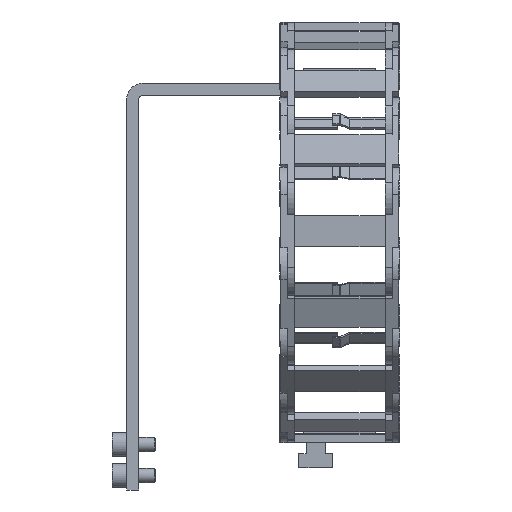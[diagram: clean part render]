
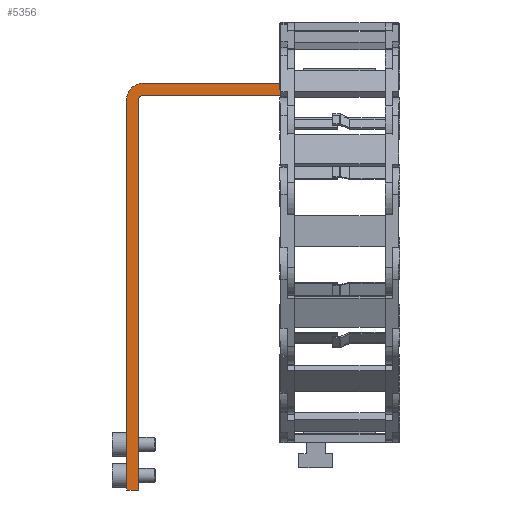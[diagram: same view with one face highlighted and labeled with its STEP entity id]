
A CAD part, left-side view. The second image highlights one B-rep face of the part: STEP entity #5356.
In plain terms, the highlighted planar face has unit normal (-1, 0, 0).
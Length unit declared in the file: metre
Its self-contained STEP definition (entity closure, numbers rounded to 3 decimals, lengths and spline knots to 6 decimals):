
#5356 = ADVANCED_FACE( '', ( #10819 ), #10820, .F. );
#10819 = FACE_OUTER_BOUND( '', #16395, .T. );
#10820 = PLANE( '', #16396 );
#16395 = EDGE_LOOP( '', ( #32894, #32895, #32896, #32897, #32898, #32899, #32900, #32901, #32902 ) );
#16396 = AXIS2_PLACEMENT_3D( '', #32903, #32904, #32905 );
#32894 = ORIENTED_EDGE( '', *, *, #37301, .T. );
#32895 = ORIENTED_EDGE( '', *, *, #39697, .F. );
#32896 = ORIENTED_EDGE( '', *, *, #37286, .T. );
#32897 = ORIENTED_EDGE( '', *, *, #39684, .T. );
#32898 = ORIENTED_EDGE( '', *, *, #35939, .T. );
#32899 = ORIENTED_EDGE( '', *, *, #38655, .T. );
#32900 = ORIENTED_EDGE( '', *, *, #38380, .T. );
#32901 = ORIENTED_EDGE( '', *, *, #38765, .F. );
#32902 = ORIENTED_EDGE( '', *, *, #40243, .F. );
#32903 = CARTESIAN_POINT( '', ( 0.035, 0.0939, 0.1353 ) );
#32904 = DIRECTION( '', ( 1., 0., 0. ) );
#32905 = DIRECTION( '', ( 0., 0., -1. ) );
#35939 = EDGE_CURVE( '', #44402, #44403, #44404, .T. );
#37286 = EDGE_CURVE( '', #46495, #46499, #46501, .T. );
#37301 = EDGE_CURVE( '', #46521, #46525, #46527, .F. );
#38380 = EDGE_CURVE( '', #48069, #48070, #48071, .T. );
#38655 = EDGE_CURVE( '', #44403, #48069, #48446, .T. );
#38765 = EDGE_CURVE( '', #45574, #48070, #48582, .T. );
#39684 = EDGE_CURVE( '', #46499, #44402, #49690, .T. );
#39697 = EDGE_CURVE( '', #46495, #46525, #49703, .T. );
#40243 = EDGE_CURVE( '', #46521, #45574, #50282, .T. );
#44402 = VERTEX_POINT( '', #55993 );
#44403 = VERTEX_POINT( '', #55994 );
#44404 = CIRCLE( '', #55995, 0.002 );
#45574 = VERTEX_POINT( '', #57592 );
#46495 = VERTEX_POINT( '', #58870 );
#46499 = VERTEX_POINT( '', #58876 );
#46501 = LINE( '', #58879, #58880 );
#46521 = VERTEX_POINT( '', #58904 );
#46525 = VERTEX_POINT( '', #58909 );
#46527 = CIRCLE( '', #58912, 0.007 );
#48069 = VERTEX_POINT( '', #61054 );
#48070 = VERTEX_POINT( '', #61055 );
#48071 = LINE( '', #61056, #61057 );
#48446 = LINE( '', #61591, #61592 );
#48582 = LINE( '', #61787, #61788 );
#49690 = LINE( '', #63367, #63368 );
#49703 = LINE( '', #63384, #63385 );
#50282 = LINE( '', #64136, #64137 );
#55993 = CARTESIAN_POINT( '', ( 0.035, 0.0889, 0.1333 ) );
#55994 = CARTESIAN_POINT( '', ( 0.035, 0.0869, 0.1353 ) );
#55995 = AXIS2_PLACEMENT_3D( '', #67076, #67077, #67078 );
#57592 = CARTESIAN_POINT( '', ( 0.035, 0.0299, 0.1403 ) );
#58870 = CARTESIAN_POINT( '', ( 0.035, 0.0939, -0.0297 ) );
#58876 = CARTESIAN_POINT( '', ( 0.035, 0.0889, -0.0297 ) );
#58879 = CARTESIAN_POINT( '', ( 0.035, 0.0939, -0.0297 ) );
#58880 = VECTOR( '', #68742, 1. );
#58904 = CARTESIAN_POINT( '', ( 0.035, 0.0869, 0.1403 ) );
#58909 = CARTESIAN_POINT( '', ( 0.035, 0.0939, 0.1333 ) );
#58912 = AXIS2_PLACEMENT_3D( '', #68764, #68765, #68766 );
#61054 = CARTESIAN_POINT( '', ( 0.035, -0.0191, 0.1353 ) );
#61055 = CARTESIAN_POINT( '', ( 0.035, -0.0191, 0.1403 ) );
#61056 = CARTESIAN_POINT( '', ( 0.035, -0.0191, 0.1353 ) );
#61057 = VECTOR( '', #70003, 1. );
#61591 = CARTESIAN_POINT( '', ( 0.035, 0.0939, 0.1353 ) );
#61592 = VECTOR( '', #70292, 1. );
#61787 = CARTESIAN_POINT( '', ( 0.035, 0.0939, 0.1403 ) );
#61788 = VECTOR( '', #70388, 1. );
#63367 = CARTESIAN_POINT( '', ( 0.035, 0.0889, -0.0297 ) );
#63368 = VECTOR( '', #71247, 1. );
#63384 = CARTESIAN_POINT( '', ( 0.035, 0.0939, 0.1353 ) );
#63385 = VECTOR( '', #71257, 1. );
#64136 = CARTESIAN_POINT( '', ( 0.035, 0.0939, 0.1403 ) );
#64137 = VECTOR( '', #71586, 1. );
#67076 = CARTESIAN_POINT( '', ( 0.035, 0.0869, 0.1333 ) );
#67077 = DIRECTION( '', ( 1., 0., 0. ) );
#67078 = DIRECTION( '', ( 0., 1., 0. ) );
#68742 = DIRECTION( '', ( 0., -1., 0. ) );
#68764 = CARTESIAN_POINT( '', ( 0.035, 0.0869, 0.1333 ) );
#68765 = DIRECTION( '', ( 1., 0., 0. ) );
#68766 = DIRECTION( '', ( 0., 1., 0. ) );
#70003 = DIRECTION( '', ( 0., 0., 1. ) );
#70292 = DIRECTION( '', ( 0., -1., 0. ) );
#70388 = DIRECTION( '', ( 0., -1., 0. ) );
#71247 = DIRECTION( '', ( 0., 0., 1. ) );
#71257 = DIRECTION( '', ( 0., 0., 1. ) );
#71586 = DIRECTION( '', ( 0., -1., 0. ) );
